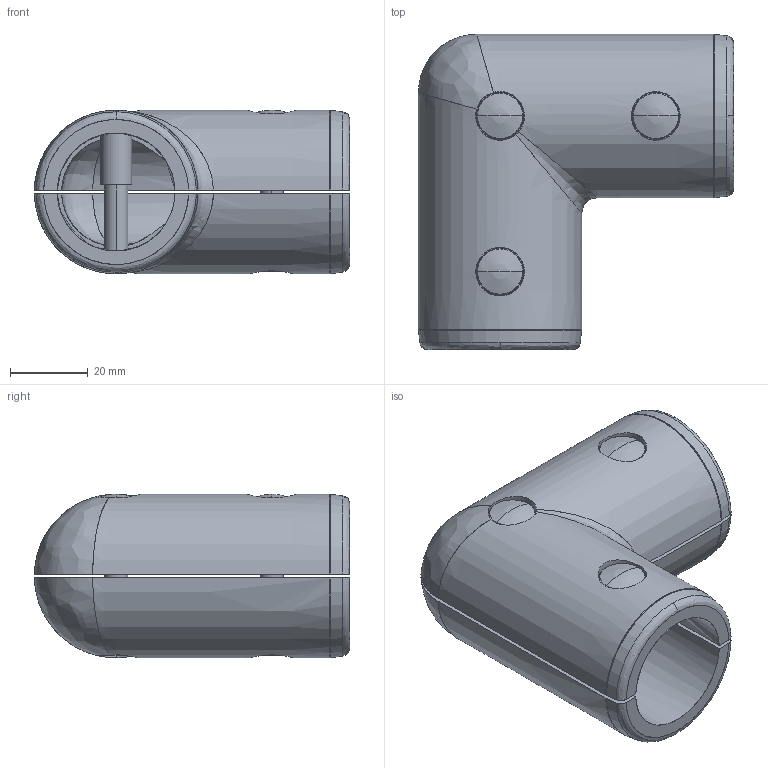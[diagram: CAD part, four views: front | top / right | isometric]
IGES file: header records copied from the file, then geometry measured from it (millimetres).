
Start section: SolidWorks IGES file using analytic representation for surfaces
Global section: file name: C:\Users\Gerard\OneDrive - Tecnodin, S.L\Escritorio\30 mm Verbinder im step. Format\31000410023.IGS; native system: SolidWorks 2016; preprocessor: SolidWorks 2016; author: Gerard; date: 240902.114100; units: millimetre
Bounding box: 80.99 x 80.99 x 42 mm (x, y, z)
Surface area: 36265.9 mm2 (no closed solid volume)
Topology: 0 solids, 0 shells, 189 faces, 3308 edges, 3293 vertices
Faces by surface type: revolution 112, bspline 77
